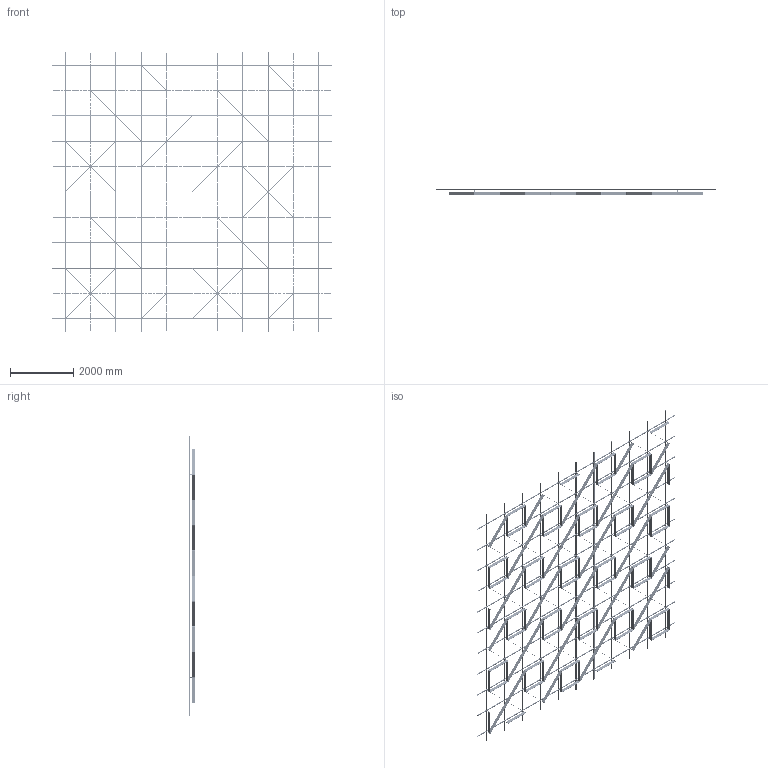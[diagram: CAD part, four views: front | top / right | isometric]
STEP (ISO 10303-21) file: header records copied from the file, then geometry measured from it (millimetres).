
FILE_DESCRIPTION (( 'STEP AP203' ), '1' );
FILE_NAME ('16 ìèäè ñ ïñ.step', '2025-11-26T11:41:38', ( '' ), ( '' ), 'SwSTEP 2.0', 'SolidWorks 2020', '' );
FILE_SCHEMA (( 'CONFIG_CONTROL_DESIGN' ));
Length unit declared in the file: millimetre
Products named in the file (5): 16 ìèäè ñ ïñ; SS.SEMA.2400 - Ñèìà-ïðîôèëü — îáðåçàí 1600; Ñèñòåìà â çîíå 8000õ8000; SS.SEMA.2400 - Ñèìà-ïðîôèëü; Var16
Assembly tree (90 placements, depth 3):
  16 ìèäè ñ ïñ
    Ñèñòåìà â çîíå 8000õ8000
      SS.SEMA.2400 - Ñèìà-ïðîôèëü  x66
      SS.SEMA.2400 - Ñèìà-ïðîôèëü — îáðåçàí 1600  x22
    Var16
Bounding box: 8800 x 205 x 8800 mm (x, y, z)
Volume: 146874530.1 mm3; surface area: 62994890.6 mm2
Topology: 736 solids, 736 shells, 19428 faces, 52460 edges, 34504 vertices
Faces by surface type: cylinder 12818, plane 6610
Entity records: 82223 total; most frequent: CARTESIAN_POINT 18826, DIRECTION 12050, ORIENTED_EDGE 11768, EDGE_CURVE 5884, AXIS2_PLACEMENT_3D 5776, VERTEX_POINT 3912, EDGE_LOOP 3434, ADVANCED_FACE 3272
